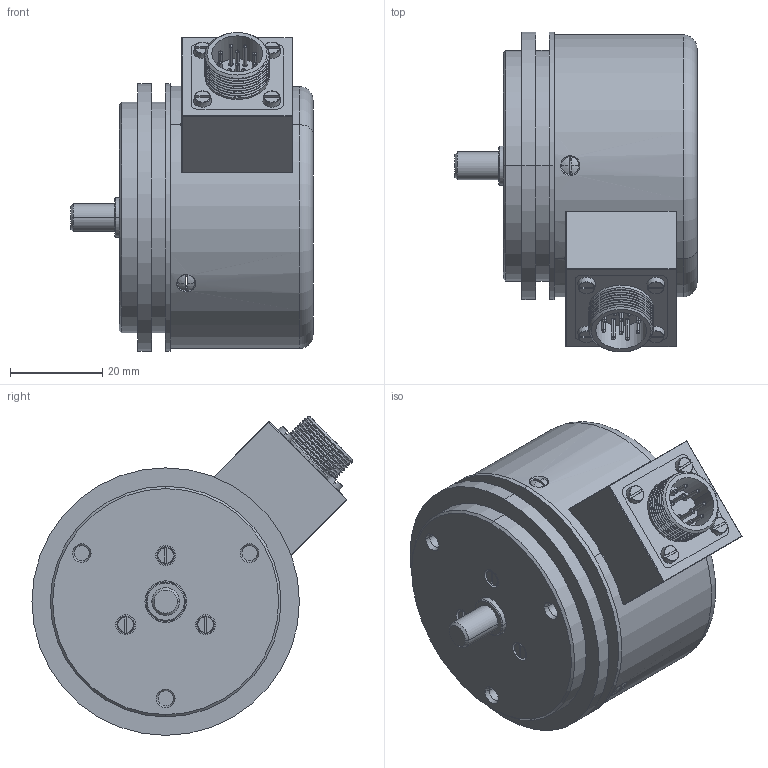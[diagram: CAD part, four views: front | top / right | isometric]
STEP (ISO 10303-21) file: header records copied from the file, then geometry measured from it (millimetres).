
FILE_DESCRIPTION (( 'STEP AP214' ), '1' );
FILE_NAME ('ËÈÐ-158À_èñï 1.STEP', '2017-05-23T08:42:41', ( '' ), ( '' ), 'SwSTEP 2.0', 'SolidWorks 2013', '' );
FILE_SCHEMA (( 'AUTOMOTIVE_DESIGN' ));
Length unit declared in the file: millimetre
Products named in the file (1): ËÈÐ-158À_èñï 1
Bounding box: 52.5 x 69.41 x 69.1 mm (x, y, z)
Surface area: 17795.9 mm2 (no closed solid volume)
Topology: 0 solids, 29 shells, 225 faces, 643 edges, 439 vertices
Faces by surface type: cylinder 78, plane 62, torus 36, cone 28, sphere 13, bspline 8
Entity records: 13794 total; most frequent: CARTESIAN_POINT 5516, DIRECTION 1278, ORIENTED_EDGE 1081, EDGE_CURVE 642, AXIS2_PLACEMENT_3D 550, VERTEX_POINT 439, CIRCLE 332, EDGE_LOOP 263
